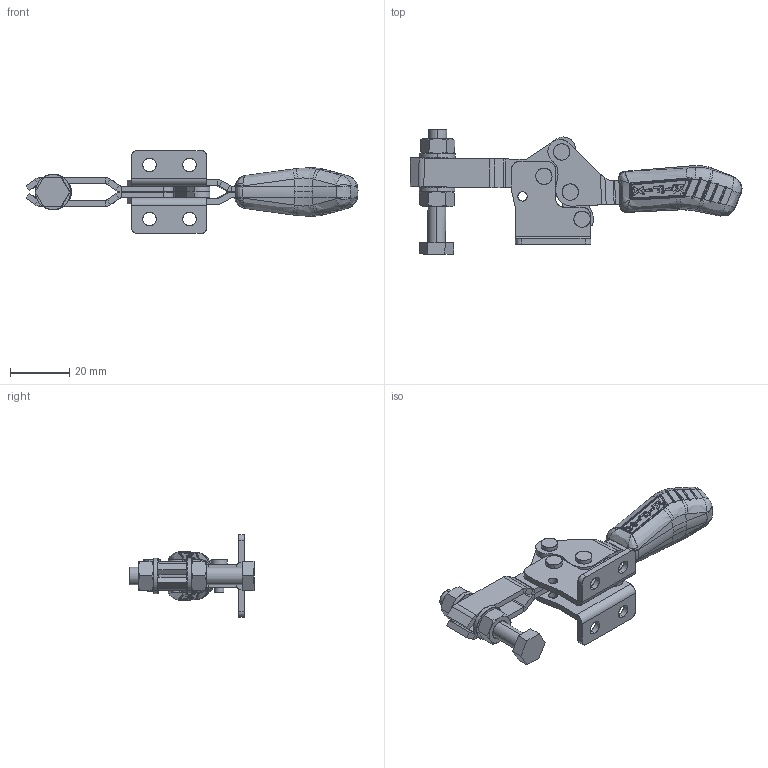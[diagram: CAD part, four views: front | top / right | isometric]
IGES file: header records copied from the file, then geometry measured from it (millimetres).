
Start section: SolidWorks IGES file using analytic representation for surfaces
Global section: file name: C:\Projetos\Grampos\KF-106\KF-106 D\KF-106 D.IGS; native system: SolidWorks 2013; preprocessor: SolidWorks 2013; author: Ricardo; date: 140815.141129; units: millimetre
Bounding box: 112.11 x 42.1 x 28 mm (x, y, z)
Surface area: 15994.3 mm2 (no closed solid volume)
Topology: 0 solids, 0 shells, 1048 faces, 11313 edges, 11290 vertices
Faces by surface type: bspline 584, revolution 464
